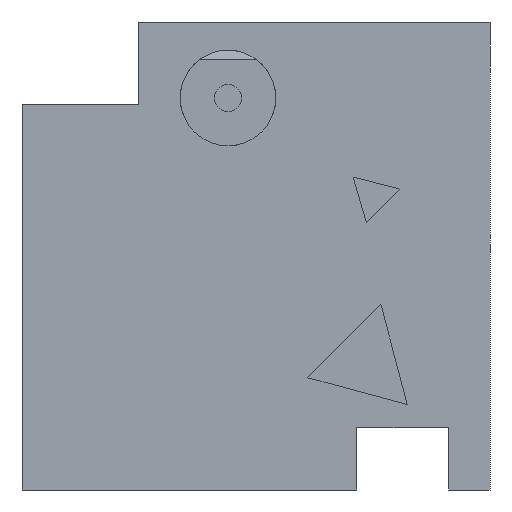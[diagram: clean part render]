
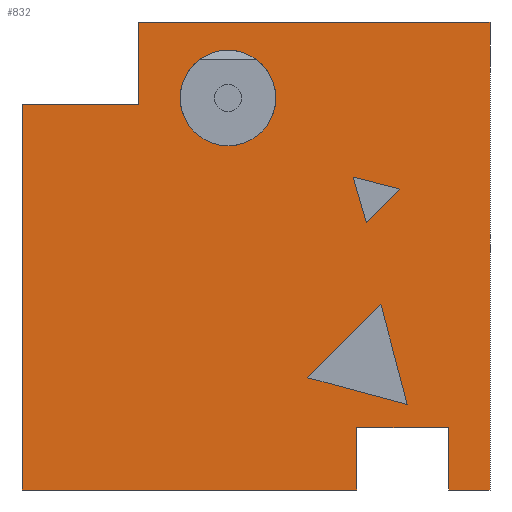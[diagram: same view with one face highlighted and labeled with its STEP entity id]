
A CAD part, left-side view. The second image highlights one B-rep face of the part: STEP entity #832.
In plain terms, the highlighted planar face has unit normal (-1, 0, 0).
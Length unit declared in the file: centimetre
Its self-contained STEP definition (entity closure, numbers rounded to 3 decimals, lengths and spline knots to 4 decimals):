
#2 = VECTOR ( 'NONE', #1205, 100. ) ;
#8 = DIRECTION ( 'NONE',  ( 0., -0.965, -0.261 ) ) ;
#20 = VECTOR ( 'NONE', #634, 100. ) ;
#25 = CARTESIAN_POINT ( 'NONE',  ( 0., 1000., 0. ) ) ;
#36 = VERTEX_POINT ( 'NONE', #1026 ) ;
#39 = VECTOR ( 'NONE', #1257, 100. ) ;
#42 = LINE ( 'NONE', #1098, #660 ) ;
#54 = ORIENTED_EDGE ( 'NONE', *, *, #904, .F. ) ;
#64 = VECTOR ( 'NONE', #372, 100. ) ;
#66 = VECTOR ( 'NONE', #1435, 100. ) ;
#84 = CARTESIAN_POINT ( 'NONE',  ( 0., 750.4039, 823.0698 ) ) ;
#89 = VERTEX_POINT ( 'NONE', #776 ) ;
#90 = CARTESIAN_POINT ( 'NONE',  ( 0., 1000., 1000. ) ) ;
#97 = CARTESIAN_POINT ( 'NONE',  ( 0., 264.1741, 571.6414 ) ) ;
#118 = ORIENTED_EDGE ( 'NONE', *, *, #435, .F. ) ;
#126 = ORIENTED_EDGE ( 'NONE', *, *, #1012, .F. ) ;
#139 = CARTESIAN_POINT ( 'NONE',  ( 0., 1000., 0. ) ) ;
#142 = CARTESIAN_POINT ( 'NONE',  ( 0., 1000., 1000. ) ) ;
#146 = DIRECTION ( 'NONE',  ( 0., 1., 0. ) ) ;
#160 = VERTEX_POINT ( 'NONE', #709 ) ;
#162 = LINE ( 'NONE', #413, #1363 ) ;
#170 = EDGE_CURVE ( 'NONE', #1406, #841, #932, .T. ) ;
#189 = EDGE_CURVE ( 'NONE', #826, #1168, #955, .T. ) ;
#191 = CIRCLE ( 'NONE', #1032, 102.1791 ) ;
#208 = CIRCLE ( 'NONE', #1497, 102.1791 ) ;
#211 = EDGE_CURVE ( 'NONE', #909, #1406, #836, .T. ) ;
#230 = CARTESIAN_POINT ( 'NONE',  ( 0., 264.1741, 571.6414 ) ) ;
#263 = DIRECTION ( 'NONE',  ( 0., -1., 0. ) ) ;
#264 = CARTESIAN_POINT ( 'NONE',  ( 0., 292.3319, 668.7856 ) ) ;
#300 = CARTESIAN_POINT ( 'NONE',  ( 0., 0., 1000. ) ) ;
#306 = LINE ( 'NONE', #659, #864 ) ;
#328 = CARTESIAN_POINT ( 'NONE',  ( 0., 232.9688, 395.8944 ) ) ;
#340 = EDGE_CURVE ( 'NONE', #1144, #1036, #649, .T. ) ;
#353 = ORIENTED_EDGE ( 'NONE', *, *, #929, .F. ) ;
#356 = EDGE_CURVE ( 'NONE', #1151, #464, #1038, .T. ) ;
#372 = DIRECTION ( 'NONE',  ( 0., -0.278, -0.96 ) ) ;
#385 = LINE ( 'NONE', #971, #20 ) ;
#404 = ORIENTED_EDGE ( 'NONE', *, *, #839, .T. ) ;
#406 = EDGE_LOOP ( 'NONE', ( #404, #891, #126, #610, #1323, #1514, #947, #1239, #1273, #1351 ) ) ;
#408 = CARTESIAN_POINT ( 'NONE',  ( 0., 388.9877, 239.8756 ) ) ;
#413 = CARTESIAN_POINT ( 'NONE',  ( 0., 285.013, 0. ) ) ;
#417 = EDGE_CURVE ( 'NONE', #1172, #826, #306, .T. ) ;
#429 = CARTESIAN_POINT ( 'NONE',  ( 0., 559.8618, 837.6705 ) ) ;
#435 = EDGE_CURVE ( 'NONE', #89, #758, #191, .T. ) ;
#438 = DIRECTION ( 'NONE',  ( 0., 0., -1. ) ) ;
#464 = VERTEX_POINT ( 'NONE', #1439 ) ;
#472 = CARTESIAN_POINT ( 'NONE',  ( 0., 192.6701, 643.1453 ) ) ;
#488 = LINE ( 'NONE', #819, #64 ) ;
#491 = VECTOR ( 'NONE', #1113, 100. ) ;
#495 = FACE_OUTER_BOUND ( 'NONE', #406, .T. ) ;
#515 = FACE_BOUND ( 'NONE', #1360, .T. ) ;
#520 = PLANE ( 'NONE',  #761 ) ;
#526 = CARTESIAN_POINT ( 'NONE',  ( 0., 88.5189, 0. ) ) ;
#538 = ORIENTED_EDGE ( 'NONE', *, *, #189, .F. ) ;
#542 = LINE ( 'NONE', #526, #1391 ) ;
#605 = DIRECTION ( 'NONE',  ( 0., 0., 1. ) ) ;
#608 = VECTOR ( 'NONE', #8, 100. ) ;
#610 = ORIENTED_EDGE ( 'NONE', *, *, #1253, .F. ) ;
#618 = LINE ( 'NONE', #727, #842 ) ;
#619 = CARTESIAN_POINT ( 'NONE',  ( 0., 559.8618, 735.4913 ) ) ;
#625 = FACE_BOUND ( 'NONE', #937, .T. ) ;
#630 = CARTESIAN_POINT ( 'NONE',  ( 0., 285.013, 132.4981 ) ) ;
#634 = DIRECTION ( 'NONE',  ( 0., -1., 0. ) ) ;
#649 = LINE ( 'NONE', #90, #715 ) ;
#659 = CARTESIAN_POINT ( 'NONE',  ( 0., 232.9688, 395.8944 ) ) ;
#660 = VECTOR ( 'NONE', #146, 100. ) ;
#663 = EDGE_CURVE ( 'NONE', #665, #1151, #1219, .T. ) ;
#665 = VERTEX_POINT ( 'NONE', #970 ) ;
#668 = DIRECTION ( 'NONE',  ( 0., 0., 1. ) ) ;
#672 = DIRECTION ( 'NONE',  ( -1., 0., 0. ) ) ;
#692 = CARTESIAN_POINT ( 'NONE',  ( 0., 388.9877, 239.8756 ) ) ;
#699 = ORIENTED_EDGE ( 'NONE', *, *, #417, .F. ) ;
#701 = DIRECTION ( 'NONE',  ( 0., -0.707, 0.707 ) ) ;
#709 = CARTESIAN_POINT ( 'NONE',  ( 0., 88.5189, 132.4981 ) ) ;
#714 = VECTOR ( 'NONE', #1403, 100. ) ;
#715 = VECTOR ( 'NONE', #438, 100. ) ;
#716 = EDGE_CURVE ( 'NONE', #36, #464, #1088, .T. ) ;
#727 = CARTESIAN_POINT ( 'NONE',  ( 0., 750.4039, 823.0698 ) ) ;
#729 = LINE ( 'NONE', #734, #491 ) ;
#734 = CARTESIAN_POINT ( 'NONE',  ( 0., 750.4039, 823.0698 ) ) ;
#737 = VECTOR ( 'NONE', #263, 100. ) ;
#740 = EDGE_CURVE ( 'NONE', #1174, #665, #618, .T. ) ;
#745 = ORIENTED_EDGE ( 'NONE', *, *, #1500, .F. ) ;
#758 = VERTEX_POINT ( 'NONE', #619 ) ;
#761 = AXIS2_PLACEMENT_3D ( 'NONE', #886, #764, #872 ) ;
#762 = DIRECTION ( 'NONE',  ( 0., 0., -1. ) ) ;
#764 = DIRECTION ( 'NONE',  ( 1., 0., 0. ) ) ;
#776 = CARTESIAN_POINT ( 'NONE',  ( 0., 559.8618, 939.8496 ) ) ;
#807 = EDGE_LOOP ( 'NONE', ( #118, #745 ) ) ;
#816 = VECTOR ( 'NONE', #701, 100. ) ;
#819 = CARTESIAN_POINT ( 'NONE',  ( 0., 292.3319, 668.7856 ) ) ;
#826 = VERTEX_POINT ( 'NONE', #408 ) ;
#832 = ADVANCED_FACE ( 'NONE', ( #977, #625, #515, #495 ), #520, .F. ) ;
#836 = LINE ( 'NONE', #97, #816 ) ;
#839 = EDGE_CURVE ( 'NONE', #1036, #965, #385, .T. ) ;
#841 = VERTEX_POINT ( 'NONE', #264 ) ;
#842 = VECTOR ( 'NONE', #605, 100. ) ;
#844 = LINE ( 'NONE', #1297, #66 ) ;
#864 = VECTOR ( 'NONE', #1136, 100. ) ;
#867 = ORIENTED_EDGE ( 'NONE', *, *, #211, .F. ) ;
#872 = DIRECTION ( 'NONE',  ( 0., 0., -1. ) ) ;
#886 = CARTESIAN_POINT ( 'NONE',  ( 0., 1000., 1000. ) ) ;
#891 = ORIENTED_EDGE ( 'NONE', *, *, #1221, .F. ) ;
#904 = EDGE_CURVE ( 'NONE', #1168, #1172, #844, .T. ) ;
#909 = VERTEX_POINT ( 'NONE', #230 ) ;
#929 = EDGE_CURVE ( 'NONE', #841, #909, #488, .T. ) ;
#932 = LINE ( 'NONE', #472, #714 ) ;
#937 = EDGE_LOOP ( 'NONE', ( #867, #353, #1390 ) ) ;
#947 = ORIENTED_EDGE ( 'NONE', *, *, #663, .F. ) ;
#955 = LINE ( 'NONE', #692, #608 ) ;
#965 = VERTEX_POINT ( 'NONE', #1201 ) ;
#970 = CARTESIAN_POINT ( 'NONE',  ( 0., 750.4039, 1000. ) ) ;
#971 = CARTESIAN_POINT ( 'NONE',  ( 0., 1000., 0. ) ) ;
#975 = CARTESIAN_POINT ( 'NONE',  ( 0., 192.6701, 643.1453 ) ) ;
#977 = FACE_BOUND ( 'NONE', #807, .T. ) ;
#1012 = EDGE_CURVE ( 'NONE', #160, #1472, #42, .T. ) ;
#1026 = CARTESIAN_POINT ( 'NONE',  ( 0., 88.5189, 0. ) ) ;
#1032 = AXIS2_PLACEMENT_3D ( 'NONE', #429, #1379, #668 ) ;
#1036 = VERTEX_POINT ( 'NONE', #139 ) ;
#1038 = LINE ( 'NONE', #1118, #39 ) ;
#1088 = LINE ( 'NONE', #25, #2 ) ;
#1098 = CARTESIAN_POINT ( 'NONE',  ( 0., 88.5189, 132.4981 ) ) ;
#1102 = EDGE_CURVE ( 'NONE', #1174, #1144, #729, .T. ) ;
#1110 = DIRECTION ( 'NONE',  ( 0., 0., 1. ) ) ;
#1113 = DIRECTION ( 'NONE',  ( 0., 1., 0. ) ) ;
#1118 = CARTESIAN_POINT ( 'NONE',  ( 0., 0., 1000. ) ) ;
#1136 = DIRECTION ( 'NONE',  ( 0., 0.707, -0.707 ) ) ;
#1144 = VERTEX_POINT ( 'NONE', #1392 ) ;
#1151 = VERTEX_POINT ( 'NONE', #300 ) ;
#1168 = VERTEX_POINT ( 'NONE', #1243 ) ;
#1172 = VERTEX_POINT ( 'NONE', #328 ) ;
#1174 = VERTEX_POINT ( 'NONE', #84 ) ;
#1201 = CARTESIAN_POINT ( 'NONE',  ( 0., 285.013, 0. ) ) ;
#1205 = DIRECTION ( 'NONE',  ( 0., -1., 0. ) ) ;
#1219 = LINE ( 'NONE', #142, #737 ) ;
#1221 = EDGE_CURVE ( 'NONE', #1472, #965, #162, .T. ) ;
#1239 = ORIENTED_EDGE ( 'NONE', *, *, #740, .F. ) ;
#1243 = CARTESIAN_POINT ( 'NONE',  ( 0., 176.7846, 182.5215 ) ) ;
#1253 = EDGE_CURVE ( 'NONE', #36, #160, #542, .T. ) ;
#1257 = DIRECTION ( 'NONE',  ( 0., 0., -1. ) ) ;
#1273 = ORIENTED_EDGE ( 'NONE', *, *, #1102, .T. ) ;
#1297 = CARTESIAN_POINT ( 'NONE',  ( 0., 176.7846, 182.5215 ) ) ;
#1323 = ORIENTED_EDGE ( 'NONE', *, *, #716, .T. ) ;
#1351 = ORIENTED_EDGE ( 'NONE', *, *, #340, .T. ) ;
#1360 = EDGE_LOOP ( 'NONE', ( #54, #538, #699 ) ) ;
#1363 = VECTOR ( 'NONE', #762, 100. ) ;
#1379 = DIRECTION ( 'NONE',  ( -1., 0., 0. ) ) ;
#1390 = ORIENTED_EDGE ( 'NONE', *, *, #170, .F. ) ;
#1391 = VECTOR ( 'NONE', #1110, 100. ) ;
#1392 = CARTESIAN_POINT ( 'NONE',  ( 0., 1000., 823.0698 ) ) ;
#1393 = DIRECTION ( 'NONE',  ( 0., 0., 1. ) ) ;
#1403 = DIRECTION ( 'NONE',  ( 0., 0.968, 0.249 ) ) ;
#1406 = VERTEX_POINT ( 'NONE', #975 ) ;
#1435 = DIRECTION ( 'NONE',  ( 0., 0.255, 0.967 ) ) ;
#1439 = CARTESIAN_POINT ( 'NONE',  ( 0., 0., 0. ) ) ;
#1472 = VERTEX_POINT ( 'NONE', #630 ) ;
#1497 = AXIS2_PLACEMENT_3D ( 'NONE', #1519, #672, #1393 ) ;
#1500 = EDGE_CURVE ( 'NONE', #758, #89, #208, .T. ) ;
#1514 = ORIENTED_EDGE ( 'NONE', *, *, #356, .F. ) ;
#1519 = CARTESIAN_POINT ( 'NONE',  ( 0., 559.8618, 837.6705 ) ) ;
